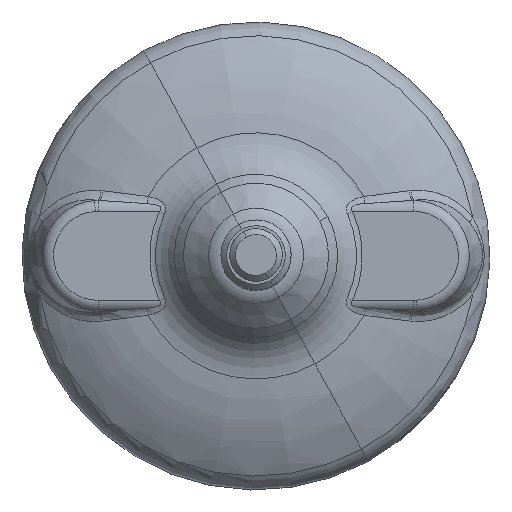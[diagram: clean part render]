
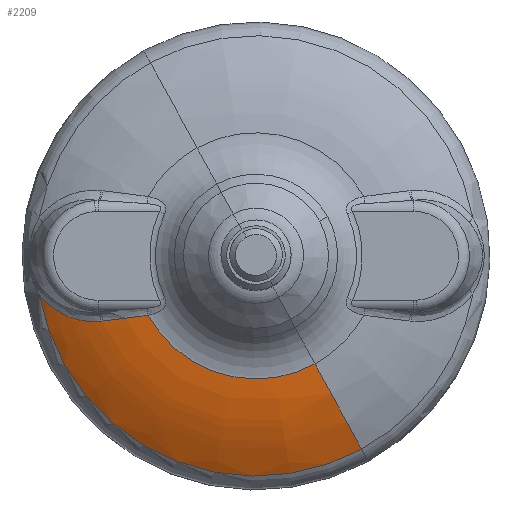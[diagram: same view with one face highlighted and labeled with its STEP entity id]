
A CAD part, top view. The second image highlights one B-rep face of the part: STEP entity #2209.
In plain terms, the highlighted face is a revolution surface.
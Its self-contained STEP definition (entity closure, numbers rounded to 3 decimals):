
#1794=CARTESIAN_POINT('Vertex',(18.043,-33.027,9.25)) ;
#2111=CARTESIAN_POINT('Control Point',(18.043,-33.027,9.25)) ;
#2112=CARTESIAN_POINT('Control Point',(16.239,-29.725,11.582)) ;
#2113=CARTESIAN_POINT('Control Point',(14.27,-26.12,13.36)) ;
#2114=CARTESIAN_POINT('Control Point',(12.195,-22.323,14.504)) ;
#2115=CARTESIAN_POINT('Control Point',(10.086,-18.462,15.)) ;
#2116=CARTESIAN_POINT('Vertex',(10.086,-18.462,15.)) ;
#2152=CARTESIAN_POINT('Control Point',(-18.043,33.027,9.25)) ;
#2153=CARTESIAN_POINT('Control Point',(-16.239,29.725,11.582)) ;
#2154=CARTESIAN_POINT('Control Point',(-14.27,26.12,13.36)) ;
#2155=CARTESIAN_POINT('Control Point',(-12.195,22.323,14.504)) ;
#2156=CARTESIAN_POINT('Control Point',(-10.086,18.462,15.)) ;
#2157=CARTESIAN_POINT('Axis1P Location',(0.,0.,-24.749)) ;
#2161=CARTESIAN_POINT('Axis2P3D Location',(0.,0.,15.)) ;
#2165=CARTESIAN_POINT('Vertex',(-18.427,-10.151,15.)) ;
#2169=CARTESIAN_POINT('Control Point',(-26.134,-11.126,13.458)) ;
#2170=CARTESIAN_POINT('Control Point',(-24.604,-10.972,13.913)) ;
#2171=CARTESIAN_POINT('Control Point',(-23.068,-10.764,14.297)) ;
#2172=CARTESIAN_POINT('Control Point',(-21.503,-10.527,14.611)) ;
#2173=CARTESIAN_POINT('Control Point',(-19.953,-10.311,14.841)) ;
#2174=CARTESIAN_POINT('Control Point',(-18.427,-10.151,15.)) ;
#2175=CARTESIAN_POINT('Vertex',(-26.134,-11.126,13.458)) ;
#2179=CARTESIAN_POINT('Control Point',(-26.441,-11.158,13.365)) ;
#2180=CARTESIAN_POINT('Control Point',(-26.339,-11.147,13.396)) ;
#2181=CARTESIAN_POINT('Control Point',(-26.237,-11.137,13.427)) ;
#2182=CARTESIAN_POINT('Control Point',(-26.134,-11.126,13.458)) ;
#2183=CARTESIAN_POINT('Vertex',(-26.441,-11.158,13.365)) ;
#2187=CARTESIAN_POINT('Control Point',(-37.066,-6.513,9.25)) ;
#2188=CARTESIAN_POINT('Control Point',(-35.375,-8.8,10.037)) ;
#2189=CARTESIAN_POINT('Control Point',(-33.195,-10.248,10.996)) ;
#2190=CARTESIAN_POINT('Control Point',(-30.971,-11.086,11.87)) ;
#2191=CARTESIAN_POINT('Control Point',(-28.671,-11.39,12.682)) ;
#2192=CARTESIAN_POINT('Control Point',(-26.441,-11.158,13.365)) ;
#2193=CARTESIAN_POINT('Vertex',(-37.066,-6.513,9.25)) ;
#2196=CARTESIAN_POINT('Axis2P3D Location',(0.,0.,9.25)) ;
#2158=DIRECTION('Axis1P Direction',(0.,-0.,-1.)) ;
#2162=DIRECTION('Axis2P3D Direction',(0.,-0.,-1.)) ;
#2197=DIRECTION('Axis2P3D Direction',(0.,-0.,-1.)) ;
#2163=AXIS2_PLACEMENT_3D('Circle Axis2P3D',#2161,#2162,$) ;
#2198=AXIS2_PLACEMENT_3D('Circle Axis2P3D',#2196,#2197,$) ;
#2202=ORIENTED_EDGE('',*,*,#2118,.F.) ;
#2203=ORIENTED_EDGE('',*,*,#2167,.F.) ;
#2204=ORIENTED_EDGE('',*,*,#2177,.T.) ;
#2205=ORIENTED_EDGE('',*,*,#2185,.T.) ;
#2206=ORIENTED_EDGE('',*,*,#2195,.T.) ;
#2207=ORIENTED_EDGE('',*,*,#2200,.T.) ;
#2209=ADVANCED_FACE('Brep With Voids',(#2208),#2160,.F.) ;
#2159=AXIS1_PLACEMENT('Revolution Surface Axis1P',#2157,#2158) ;
#2110=B_SPLINE_CURVE_WITH_KNOTS('',4,(#2111,#2112,#2113,#2114,#2115),.UNSPECIFIED.,.F.,.U.,(5,5),(40.636,58.442),.UNSPECIFIED.) ;
#2151=B_SPLINE_CURVE_WITH_KNOTS('',4,(#2152,#2153,#2154,#2155,#2156),.UNSPECIFIED.,.F.,.U.,(5,5),(40.636,58.442),.UNSPECIFIED.) ;
#2168=B_SPLINE_CURVE_WITH_KNOTS('',5,(#2169,#2170,#2171,#2172,#2173,#2174),.UNSPECIFIED.,.F.,.U.,(6,6),(0.,11.353),.UNSPECIFIED.) ;
#2178=B_SPLINE_CURVE_WITH_KNOTS('',3,(#2179,#2180,#2181,#2182),.UNSPECIFIED.,.F.,.U.,(4,4),(0.,0.457),.UNSPECIFIED.) ;
#2186=B_SPLINE_CURVE_WITH_KNOTS('',5,(#2187,#2188,#2189,#2190,#2191,#2192),.UNSPECIFIED.,.F.,.U.,(6,6),(0.,17.83),.UNSPECIFIED.) ;
#2164=CIRCLE('generated circle',#2163,21.038) ;
#2199=CIRCLE('generated circle',#2198,37.634) ;
#2118=EDGE_CURVE('',#2117,#1795,#2110,.F.) ;
#2167=EDGE_CURVE('',#2166,#2117,#2164,.F.) ;
#2177=EDGE_CURVE('',#2166,#2176,#2168,.F.) ;
#2185=EDGE_CURVE('',#2176,#2184,#2178,.F.) ;
#2195=EDGE_CURVE('',#2184,#2194,#2186,.F.) ;
#2200=EDGE_CURVE('',#2194,#1795,#2199,.F.) ;
#2201=EDGE_LOOP('',(#2202,#2203,#2204,#2205,#2206,#2207)) ;
#2208=FACE_OUTER_BOUND('',#2201,.T.) ;
#2160=SURFACE_OF_REVOLUTION('Surface of Revolution',#2151,#2159) ;
#1795=VERTEX_POINT('',#1794) ;
#2117=VERTEX_POINT('',#2116) ;
#2166=VERTEX_POINT('',#2165) ;
#2176=VERTEX_POINT('',#2175) ;
#2184=VERTEX_POINT('',#2183) ;
#2194=VERTEX_POINT('',#2193) ;
